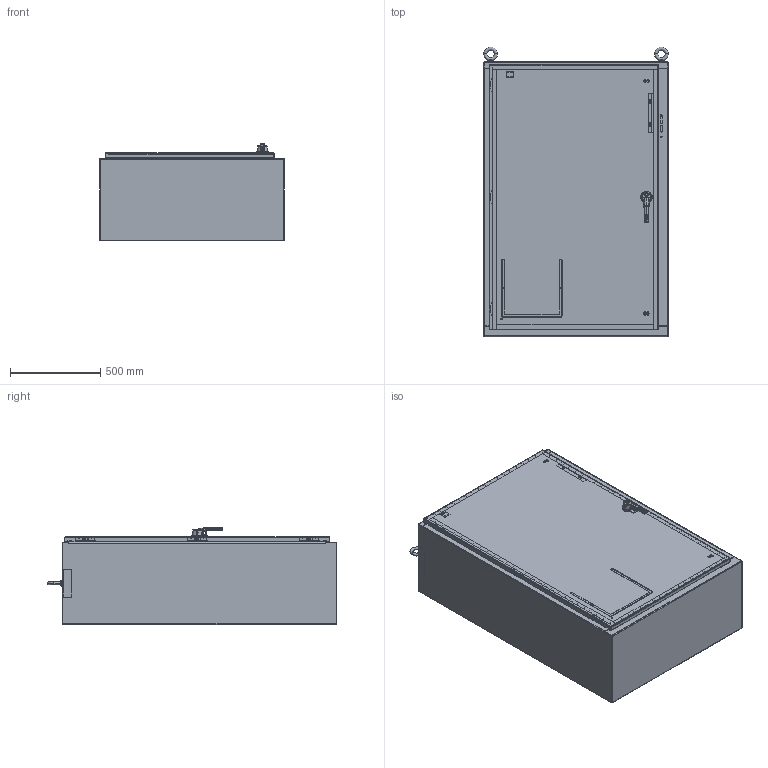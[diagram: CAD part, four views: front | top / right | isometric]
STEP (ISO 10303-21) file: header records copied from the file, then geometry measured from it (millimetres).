
FILE_DESCRIPTION (( 'STEP AP203' ), '1' );
FILE_NAME ('a60x1e4018.STEP', '2012-12-10T16:23:23', ( 'User' ), ( 'Pentair Inc' ), 'SwSTEP 2.0', 'SolidWorks 2010', '' );
FILE_SCHEMA (( 'CONFIG_CONTROL_DESIGN' ));
Products named in the file (65): 89094795; a60x1e4018; 89095362; 89095332; 89095274; 89094859; 89095303; 89095203; 22112001_AFTER WELD; 27104001; 89095225; 89094801; 22218508_22218508; 89095246; 89094814; 89085500; 87932883; 26108002; 99415273_Hex Nut; 89094785; 89094775; 89094770; 99404177_Config-Drawing; 24110001; 89085464_60127101; 99401225_Config-Drawing; 23418001; 22318001; 99401318_99401318; 99414187; 87956539; 87922656; 87573118_87573118; 87573121_87573121; 30101003; 27115001; 22318002; 26118002_26118002; 87933100; 87932715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
Assembly tree (101 placements, depth 5):
  a60x1e4018
    89095362
      99415273_Hex Nut  x2
      89095246
        89094814
        99404177_Config-Drawing
      89085500  x2
      89095332
        22112001_AFTER WELD  x6
        89095274
          89094859
        27104001  x2
        89095303
          89095203
      26108002  x2
      87932883  x2
      89095225
        22218508_22218508
        89094801
    87790199  x3
    89085489  x3
      60127135_Installed postion
      89085847
      60127199_60127199
      87790201_87790201
    89094785
      23418001
      87922656  x2
      99414187  x2
      87573118_87573118  x2
        87573121_87573121
        27115001
        22318002
        30101003
      89094795
      22318001  x2
      99401318_99401318  x2
      26118002_26118002  x2
      99411839_99411839  x4
      87956539  x2
      89043565_89043565
      89095560
      87780091  x3
      22108006
      87572857
      89094775
        89085464_60127101  x3
        99401225_Config-Drawing  x6
        99404177_Config-Drawing
        89094770
        24110001  x2
      87933100
        87933760
        87568544
        87933089
        87950960
        87932357
        87932700
        87932715
          87932691
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Bounding box: 1022.75 x 1606.68 x 538.46 mm (x, y, z)
Volume: 15047095.7 mm3; surface area: 12593569.3 mm2
Topology: 105 solids, 105 shells, 7385 faces, 18108 edges, 11060 vertices
Faces by surface type: plane 2921, cylinder 2041, bspline 1312, torus 477, cone 411, sphere 223
Entity records: 229037 total; most frequent: CARTESIAN_POINT 110921, ORIENTED_EDGE 24752, DIRECTION 20182, EDGE_CURVE 12376, VERTEX_POINT 7616, AXIS2_PLACEMENT_3D 7126, VECTOR 5930, LINE 5930
